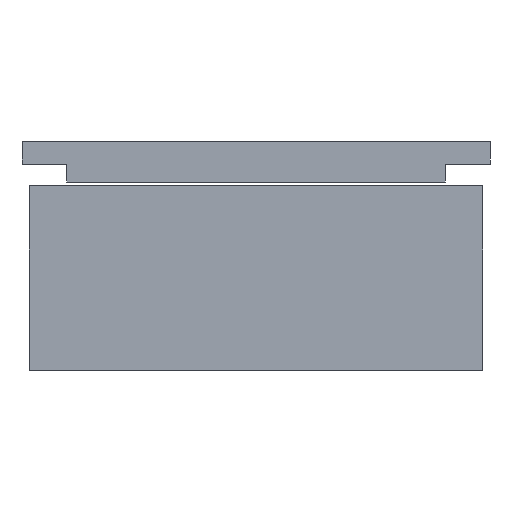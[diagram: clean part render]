
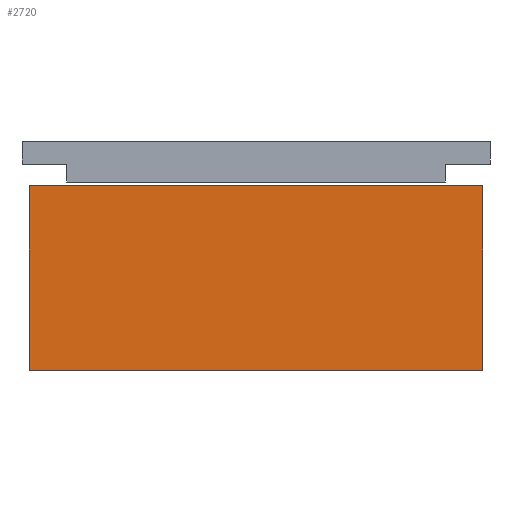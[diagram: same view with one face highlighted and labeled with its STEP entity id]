
A CAD part, left-side view. The second image highlights one B-rep face of the part: STEP entity #2720.
In plain terms, the highlighted planar face has unit normal (-1, 0, 0).
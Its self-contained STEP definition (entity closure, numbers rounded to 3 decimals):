
#45 = DIRECTION ( 'NONE',  ( 1., 0., 0. ) ) ;
#110 = VECTOR ( 'NONE', #2844, 1000. ) ;
#228 = VERTEX_POINT ( 'NONE', #2094 ) ;
#270 = VECTOR ( 'NONE', #2339, 1000. ) ;
#362 = ORIENTED_EDGE ( 'NONE', *, *, #1763, .F. ) ;
#375 = LINE ( 'NONE', #3433, #110 ) ;
#427 = VECTOR ( 'NONE', #824, 1000. ) ;
#573 = VERTEX_POINT ( 'NONE', #2382 ) ;
#814 = ORIENTED_EDGE ( 'NONE', *, *, #2333, .F. ) ;
#824 = DIRECTION ( 'NONE',  ( 0., -1., 0. ) ) ;
#943 = AXIS2_PLACEMENT_3D ( 'NONE', #1571, #45, #2742 ) ;
#981 = EDGE_CURVE ( 'NONE', #1580, #1229, #2028, .T. ) ;
#1229 = VERTEX_POINT ( 'NONE', #3146 ) ;
#1251 = VECTOR ( 'NONE', #1898, 1000. ) ;
#1279 = PLANE ( 'NONE',  #943 ) ;
#1345 = EDGE_CURVE ( 'NONE', #1229, #228, #3619, .T. ) ;
#1450 = ORIENTED_EDGE ( 'NONE', *, *, #981, .T. ) ;
#1571 = CARTESIAN_POINT ( 'NONE',  ( -56., -60.5, 49.3 ) ) ;
#1580 = VERTEX_POINT ( 'NONE', #3186 ) ;
#1763 = EDGE_CURVE ( 'NONE', #573, #228, #1843, .T. ) ;
#1843 = LINE ( 'NONE', #2076, #270 ) ;
#1882 = EDGE_LOOP ( 'NONE', ( #1943, #362, #814, #1450 ) ) ;
#1898 = DIRECTION ( 'NONE',  ( 0., 0., -1. ) ) ;
#1943 = ORIENTED_EDGE ( 'NONE', *, *, #1345, .T. ) ;
#2028 = LINE ( 'NONE', #2454, #1251 ) ;
#2076 = CARTESIAN_POINT ( 'NONE',  ( -56., -60.5, 49.3 ) ) ;
#2094 = CARTESIAN_POINT ( 'NONE',  ( -56., -60.5, 0. ) ) ;
#2333 = EDGE_CURVE ( 'NONE', #1580, #573, #375, .T. ) ;
#2339 = DIRECTION ( 'NONE',  ( 0., 0., -1. ) ) ;
#2382 = CARTESIAN_POINT ( 'NONE',  ( -56., -60.5, 49.3 ) ) ;
#2454 = CARTESIAN_POINT ( 'NONE',  ( -56., 60.5, 49.3 ) ) ;
#2720 = ADVANCED_FACE ( 'NONE', ( #3402 ), #1279, .F. ) ;
#2742 = DIRECTION ( 'NONE',  ( 0., 0., -1. ) ) ;
#2844 = DIRECTION ( 'NONE',  ( 0., -1., 0. ) ) ;
#3146 = CARTESIAN_POINT ( 'NONE',  ( -56., 60.5, 0. ) ) ;
#3186 = CARTESIAN_POINT ( 'NONE',  ( -56., 60.5, 49.3 ) ) ;
#3402 = FACE_OUTER_BOUND ( 'NONE', #1882, .T. ) ;
#3433 = CARTESIAN_POINT ( 'NONE',  ( -56., -60.5, 49.3 ) ) ;
#3619 = LINE ( 'NONE', #3776, #427 ) ;
#3776 = CARTESIAN_POINT ( 'NONE',  ( -56., -60.5, 0. ) ) ;
